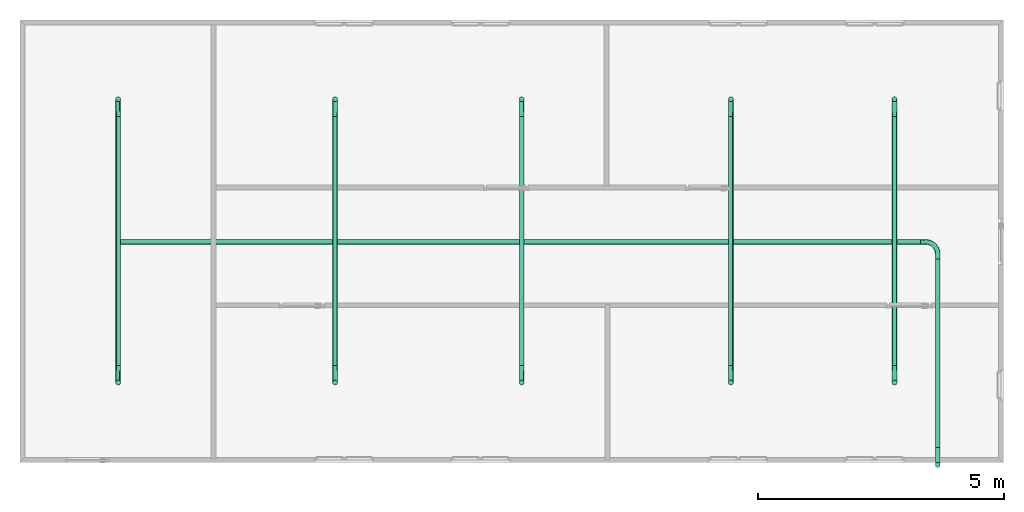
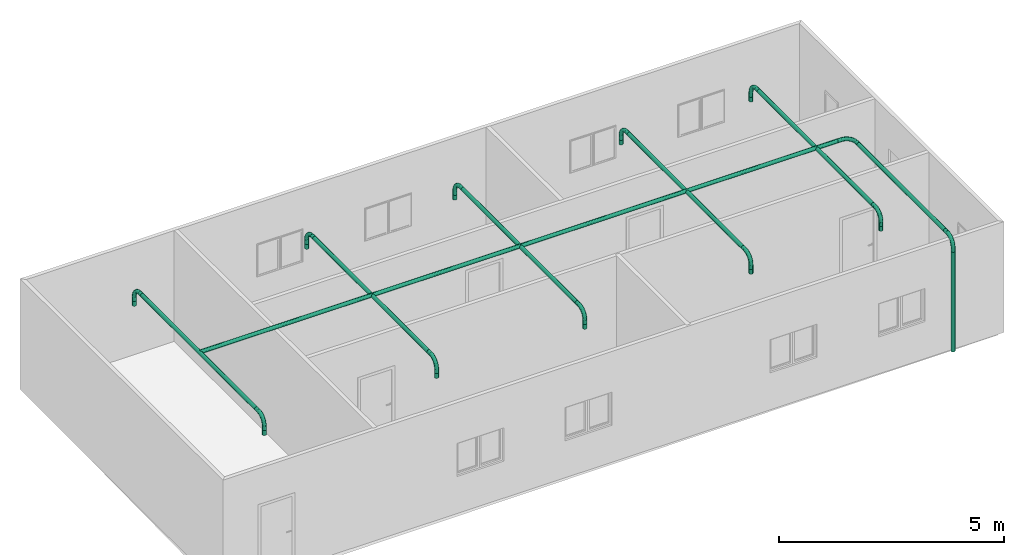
# One storey, part 4 of 4: 18 pipe segments, 12 pipe fittings, 12 openings.
"""IFC4 building model written with IfcOpenShell, lengths in metres."""

import ifcopenshell
import ifcopenshell.guid

model = None  # the IFC model being written
_history = None  # IfcOwnerHistory: only IFC2X3 demands one
_inside = {}  # id of a spatial element -> (the spatial element, [elements in it])
_under = {}  # id of a project, library or spatial element -> (it, [spatial elements below it])
_declared = {}  # id of a project -> (the project, [libraries it declares])
_typed = {}  # id of a type object -> (the type object, [elements of that type])
_made_of = {}  # id of a material, layer set ... -> (it, [elements and type objects made of it])


def new_model(schema):
    """Start an empty IFC model of exactly this schema.

    Asked for "IFC4X3", IfcOpenShell would pick the latest addendum, in which some entities
    have other attributes; the version numbers below select the first issue.
    IFC2X3 requires an IfcOwnerHistory on every rooted entity: one is made here for all.
    """
    global model, _history
    if schema == "IFC4X3":
        model = ifcopenshell.file(schema_version=(4, 3, 0, 0))
    else:
        model = ifcopenshell.file(schema=schema)
    _inside.clear()
    _under.clear()
    _declared.clear()
    _typed.clear()
    _made_of.clear()
    _history = None
    if model.schema == "IFC2X3":
        org = make("IfcOrganization", Name="unknown")
        user = make(
            "IfcPersonAndOrganization",
            ThePerson=make("IfcPerson", FamilyName="unknown"),
            TheOrganization=org,
        )
        app = make(
            "IfcApplication",
            ApplicationDeveloper=org,
            Version="unknown",
            ApplicationFullName="unknown",
            ApplicationIdentifier="unknown",
        )
        _history = make(
            "IfcOwnerHistory",
            OwningUser=user,
            OwningApplication=app,
            ChangeAction="ADDED",
            CreationDate=0,
        )
    return model


def make(cls, **values):
    """One entity of the class cls with the attributes given. An attribute that is None is left unset."""
    return model.create_entity(
        cls, **{name: value for name, value in values.items() if value is not None}
    )


def entity(cls, *values):
    """Any entity or typed value of the class cls, its attributes in the order of the schema. None: left unset."""
    e = model.create_entity(cls)
    for i, value in enumerate(values):
        if value is not None:
            e[i] = value
    return e


def rooted(cls, **values):
    """An entity with a GlobalId (a new one), such as an element, a storey or a relation."""
    return make(cls, GlobalId=ifcopenshell.guid.new(), OwnerHistory=_history, **values)


def si_unit(unit_type, name, prefix=None):
    """IfcSIUnit, for example si_unit("LENGTHUNIT", "METRE", prefix="MILLI")."""
    return make("IfcSIUnit", UnitType=unit_type, Prefix=prefix, Name=name)


def converted_unit(unit_type, name, factor, base, dimensions=None, offset=None):
    """IfcConversionBasedUnit, such as the inch: factor (a typed value) times the base unit."""
    return make(
        "IfcConversionBasedUnit"
        if offset is None
        else "IfcConversionBasedUnitWithOffset",
        ConversionOffset=offset,
        Dimensions=None
        if dimensions is None
        else entity("IfcDimensionalExponents", *dimensions),
        UnitType=unit_type,
        Name=name,
        ConversionFactor=make(
            "IfcMeasureWithUnit", ValueComponent=factor, UnitComponent=base
        ),
    )


def assignment(units):
    """IfcUnitAssignment: the units of a project."""
    return None if units is None else make("IfcUnitAssignment", Units=units)


def point(xyz):
    """IfcCartesianPoint."""
    return None if xyz is None else make("IfcCartesianPoint", Coordinates=xyz)


def direction(xyz):
    """IfcDirection."""
    return None if xyz is None else make("IfcDirection", DirectionRatios=xyz)


def frame(location, z_axis=None, x_axis=None):
    """IfcAxis2Placement3D, a coordinate frame: its origin and axes. An axis left out is left unset."""
    return make(
        "IfcAxis2Placement3D",
        Location=point(location),
        Axis=direction(z_axis),
        RefDirection=direction(x_axis),
    )


def frame_2d(location, x_axis=None):
    """IfcAxis2Placement2D, a coordinate frame in the plane: its origin and x axis."""
    return make(
        "IfcAxis2Placement2D", Location=point(location), RefDirection=direction(x_axis)
    )


def origin_with_axes():
    """The frame at (0, 0, 0) with the z axis (0, 0, 1) and the x axis (1, 0, 0) written out."""
    return frame((0.0, 0.0, 0.0), z_axis=(0.0, 0.0, 1.0), x_axis=(1.0, 0.0, 0.0))


def origin_2d_with_axis():
    """The frame at (0, 0) in the plane with the x axis (1, 0) written out."""
    return frame_2d((0.0, 0.0), x_axis=(1.0, 0.0))


def place(relative_to, where):
    """IfcLocalPlacement: puts the frame where relative to a parent placement (None: the world)."""
    return make(
        "IfcLocalPlacement", PlacementRelTo=relative_to, RelativePlacement=where
    )


def context(
    kind, dimensions, precision=None, world=None, true_north=None, identifier=None
):
    """IfcGeometricRepresentationContext, for example the 3D "Model" context."""
    return make(
        "IfcGeometricRepresentationContext",
        ContextIdentifier=identifier,
        ContextType=kind,
        CoordinateSpaceDimension=dimensions,
        Precision=precision,
        WorldCoordinateSystem=world,
        TrueNorth=true_north,
    )


def subcontext(parent, identifier, kind, view, scale=None):
    """IfcGeometricRepresentationSubContext, for example "Body" below "Model"."""
    return make(
        "IfcGeometricRepresentationSubContext",
        ContextIdentifier=identifier,
        ContextType=kind,
        ParentContext=parent,
        TargetScale=scale,
        TargetView=view,
    )


def project(units=None, contexts=None):
    """IfcProject with its units and contexts."""
    return rooted(
        "IfcProject",
        Name="project",
        RepresentationContexts=contexts,
        UnitsInContext=assignment(units),
    )


def spatial(cls, under=None, at=None, **own):
    """A site, building, storey or space (cls), placed at a placement, below another one or the project."""
    s = rooted(cls, ObjectPlacement=at, **own)
    if under is not None:
        _under.setdefault(under.id(), (under, []))[1].append(s)
    return s


def point_list(points):
    """IfcCartesianPointList2D or 3D."""
    cls = (
        "IfcCartesianPointList2D" if len(points[0]) == 2 else "IfcCartesianPointList3D"
    )
    return make(cls, CoordList=points)


def line(*indices):
    """IfcLineIndex: a straight run through numbered points of an indexed curve."""
    return model.create_entity("IfcLineIndex", indices)


def indexed_curve(points, segments=None, self_intersect=None):
    """IfcIndexedPolyCurve: lines and arcs through numbered points (the first is 1)."""
    return make(
        "IfcIndexedPolyCurve",
        Points=point_list(points),
        Segments=segments,
        SelfIntersect=self_intersect,
    )


def profile(cls, at=None, kind="AREA", **sizes):
    """A parametric profile (cls). Its sizes go by their IFC names, for example OverallWidth=200.0."""
    return make(cls, ProfileType=kind, Position=at, **sizes)


def circle(**sizes):
    """IfcCircleProfileDef."""
    return profile("IfcCircleProfileDef", **sizes)


def outline(outer, holes=None, kind="AREA"):
    """IfcArbitraryClosedProfileDef: a profile drawn as a closed curve; with holes, ...WithVoids."""
    if holes is None:
        return make("IfcArbitraryClosedProfileDef", ProfileType=kind, OuterCurve=outer)
    return make(
        "IfcArbitraryProfileDefWithVoids",
        ProfileType=kind,
        OuterCurve=outer,
        InnerCurves=holes,
    )


def extrude(swept, where, along, depth):
    """IfcExtrudedAreaSolid: the profile swept, set in the frame where, extruded along a direction by depth."""
    return make(
        "IfcExtrudedAreaSolid",
        SweptArea=swept,
        Position=where,
        ExtrudedDirection=direction(along),
        Depth=depth,
    )


def shape(context_of_items, identifier, shape_type, items):
    """IfcShapeRepresentation: the items that make up one representation, for example the "Body"."""
    return make(
        "IfcShapeRepresentation",
        ContextOfItems=context_of_items,
        RepresentationIdentifier=identifier,
        RepresentationType=shape_type,
        Items=items,
    )


def source(mapping_origin, context_of_items, identifier, shape_type, items):
    """IfcRepresentationMap: a shape defined once, which mapped items show again and again."""
    return make(
        "IfcRepresentationMap",
        MappingOrigin=mapping_origin,
        MappedRepresentation=shape(context_of_items, identifier, shape_type, items),
    )


def transform(
    local_origin,
    x_axis=None,
    y_axis=None,
    z_axis=None,
    scale=None,
    scale2=None,
    scale3=None,
    uniform=True,
):
    """IfcCartesianTransformationOperator3D, or its non-uniform kind. x_axis, y_axis, z_axis: its Axis1, 2, 3."""
    if uniform:
        return make(
            "IfcCartesianTransformationOperator3D",
            Axis1=direction(x_axis),
            Axis2=direction(y_axis),
            LocalOrigin=point(local_origin),
            Scale=scale,
            Axis3=direction(z_axis),
        )
    return make(
        "IfcCartesianTransformationOperator3DnonUniform",
        Axis1=direction(x_axis),
        Axis2=direction(y_axis),
        LocalOrigin=point(local_origin),
        Scale=scale,
        Axis3=direction(z_axis),
        Scale2=scale2,
        Scale3=scale3,
    )


def mapped(mapping_source, mapping_target):
    """IfcMappedItem: shows the shape of a source again, moved by a transform."""
    return make(
        "IfcMappedItem", MappingSource=mapping_source, MappingTarget=mapping_target
    )


def material(Name=None, Category=None):
    """IfcMaterial."""
    return make("IfcMaterial", Name=Name, Category=Category)


def material_profile(
    of_material, cross_section, Name=None, Category=None, Priority=None
):
    """IfcMaterialProfile: a cross section and its material."""
    return make(
        "IfcMaterialProfile",
        Name=Name,
        Material=of_material,
        Profile=cross_section,
        Priority=Priority,
        Category=Category,
    )


def profile_set(profiles, Name=None, composite=None):
    """IfcMaterialProfileSet."""
    return make(
        "IfcMaterialProfileSet",
        Name=Name,
        MaterialProfiles=profiles,
        CompositeProfile=composite,
    )


def profile_usage(for_profile_set, cardinal=None, extent=None):
    """IfcMaterialProfileSetUsage: how a profile set lies along its element."""
    return make(
        "IfcMaterialProfileSetUsage",
        ForProfileSet=for_profile_set,
        CardinalPoint=cardinal,
        ReferenceExtent=extent,
    )


def made_of(thing, what):
    """Note that an element or type object is made of a material, layer set ...; save() writes the relation."""
    if what is not None:
        _made_of.setdefault(what.id(), (what, []))[1].append(thing)
    return thing


def type_object(cls, material=None, **own):
    """A type object (cls), such as IfcWallType, which elements share."""
    return made_of(rooted(cls, **own), material)


def type_shapes(of_type, sources):
    """Give a type object the sources (RepresentationMaps) that its elements show as mapped items."""
    of_type.RepresentationMaps = sources


def element(
    cls,
    number,
    at=None,
    inside=None,
    cuts=None,
    type_object=None,
    material=None,
    context=None,
    identifier="Body",
    shape_type=None,
    held_by="IfcProductDefinitionShape",
    body=None,
    shapes=None,
    **own,
):
    """One element of the class cls, such as IfcWall. Its Tag is "e" and its number.

    at: its placement. inside: the storey or other place that contains it. cuts: it is an
    opening in that element (IfcRelVoidsElement). A single representation is given by context,
    identifier, shape_type and body (its items); several are given by shapes. held_by: the class
    of the entity that holds the representations. save() writes the other relations.
    """
    e = rooted(cls, Tag="e%d" % number, ObjectPlacement=at, **own)
    if body is not None:
        shapes = [shape(context, identifier, shape_type, body)]
    if shapes is not None:
        e.Representation = make(held_by, Representations=shapes)
    if inside is not None:
        _inside.setdefault(inside.id(), (inside, []))[1].append(e)
    if cuts is not None:
        rooted(
            "IfcRelVoidsElement", RelatingBuildingElement=cuts, RelatedOpeningElement=e
        )
    if type_object is not None:
        _typed.setdefault(type_object.id(), (type_object, []))[1].append(e)
    return made_of(e, material)


def aggregate(whole, parts):
    """IfcRelAggregates: a whole, such as a stair, and the parts it consists of."""
    return rooted("IfcRelAggregates", RelatingObject=whole, RelatedObjects=parts)


def save(model, path):
    """Write the relations noted so far, then the file.

    IfcRelAggregates (storeys below a building ...), IfcRelContainedInSpatialStructure (elements
    in a storey), IfcRelDefinesByType, IfcRelAssociatesMaterial and IfcRelDeclares: one each for
    every whole, place, type object, material and project.
    """
    for whole, parts in _under.values():
        aggregate(whole, parts)
    for where, things in _inside.values():
        rooted(
            "IfcRelContainedInSpatialStructure",
            RelatedElements=things,
            RelatingStructure=where,
        )
    for kind, things in _typed.values():
        rooted("IfcRelDefinesByType", RelatedObjects=things, RelatingType=kind)
    for what, things in _made_of.values():
        rooted("IfcRelAssociatesMaterial", RelatedObjects=things, RelatingMaterial=what)
    for by, libraries in _declared.values():
        rooted("IfcRelDeclares", RelatingContext=by, RelatedDefinitions=libraries)
    model.write(path)


model = new_model("IFC4")

# Units and contexts
model_context = context("Model", 3, precision=1e-05, world=origin_with_axes())
plan_context = context("Plan", 2, precision=1e-05, world=origin_2d_with_axis())
body_context = subcontext(model_context, "Body", "Model", "MODEL_VIEW")
ifc_project = project(units=[si_unit("LENGTHUNIT", "METRE"), converted_unit("PLANEANGLEUNIT", "degree", entity("IfcReal", 0.0174532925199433), si_unit("PLANEANGLEUNIT", "RADIAN"), dimensions=[0, 0, 0, 0, 0, 0, 0]), si_unit("AREAUNIT", "SQUARE_METRE"), si_unit("VOLUMEUNIT", "CUBIC_METRE")], contexts=[model_context, plan_context])

# Site, building, storey
site_placement = place(None, origin_with_axes())
site = spatial("IfcSite", under=ifc_project, at=site_placement, Name="My Site")
building_placement = place(site_placement, origin_with_axes())
building = spatial("IfcBuilding", under=site, at=building_placement, Name="My Building")
storey_placement = place(building_placement, origin_with_axes())
storey = spatial("IfcBuildingStorey", under=building, at=storey_placement, Name="GF")

# Pipe segments
ifc_material = material(Name="Unknown")
ifc_material_profile = material_profile(ifc_material, circle(Radius=0.05))
ifc_profile_set = profile_set([ifc_material_profile])
ifc_profile_usage_1 = profile_usage(ifc_profile_set, cardinal=5)
pipe_segment_type = type_object("IfcPipeSegmentType", Name="Unnamed", PredefinedType="RIGIDSEGMENT", material=ifc_profile_set)
pipe_segment_1_placement = place(storey_placement, frame((1.9957890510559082, 4.4877238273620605, 3.049635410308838), z_axis=(0.999999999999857, -3.139163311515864e-07, 4.331257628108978e-07), x_axis=(3.1391647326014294e-07, 0.9999999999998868, -3.5762778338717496e-07)))
element("IfcPipeSegment", 1, at=pipe_segment_1_placement, inside=storey, type_object=pipe_segment_type, material=ifc_profile_usage_1, Name="PipeSegment", context=body_context, shape_type="SweptSolid", body=[
    extrude(circle(Radius=0.05), origin_with_axes(), (0.0, 0.0, 1.0), 16.321609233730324),
])
ifc_profile_usage_2 = profile_usage(ifc_profile_set, cardinal=5)
pipe_segment_2_placement = place(storey_placement, frame((1.9957900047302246, 7.039340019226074, 3.0428380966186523), z_axis=(0.0, -0.9999999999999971, 7.549790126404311e-08), x_axis=(1.0, 0.0, 0.0)))
element("IfcPipeSegment", 2, at=pipe_segment_2_placement, inside=storey, type_object=pipe_segment_type, material=ifc_profile_usage_2, Name="PipeSegment", context=body_context, shape_type="SweptSolid", body=[
    extrude(circle(Radius=0.05), origin_with_axes(), (0.0, 0.0, 1.0), 5.064281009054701),
])
ifc_profile_usage_3 = profile_usage(ifc_profile_set, cardinal=5)
pipe_segment_3_placement = place(storey_placement, frame((6.408720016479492, 7.039339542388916, 3.0428380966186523), z_axis=(0.0, -0.9999999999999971, 7.549790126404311e-08), x_axis=(1.0, 0.0, 0.0)))
element("IfcPipeSegment", 3, at=pipe_segment_3_placement, inside=storey, type_object=pipe_segment_type, material=ifc_profile_usage_3, Name="PipeSegment", context=body_context, shape_type="SweptSolid", body=[
    extrude(circle(Radius=0.05), origin_with_axes(), (0.0, 0.0, 1.0), 5.064280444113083),
])
ifc_profile_usage_4 = profile_usage(ifc_profile_set, cardinal=5)
pipe_segment_4_placement = place(storey_placement, frame((10.205100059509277, 7.039339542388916, 3.0428380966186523), z_axis=(0.0, -0.9999999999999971, 7.549790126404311e-08), x_axis=(1.0, 0.0, 0.0)))
element("IfcPipeSegment", 4, at=pipe_segment_4_placement, inside=storey, type_object=pipe_segment_type, material=ifc_profile_usage_4, Name="PipeSegment", context=body_context, shape_type="SweptSolid", body=[
    extrude(circle(Radius=0.05), origin_with_axes(), (0.0, 0.0, 1.0), 5.064280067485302),
])
ifc_profile_usage_5 = profile_usage(ifc_profile_set, cardinal=5)
pipe_segment_5_placement = place(storey_placement, frame((14.460000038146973, 7.039339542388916, 3.0428380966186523), z_axis=(0.0, -0.9999999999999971, 7.549790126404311e-08), x_axis=(1.0, 0.0, 0.0)))
element("IfcPipeSegment", 5, at=pipe_segment_5_placement, inside=storey, type_object=pipe_segment_type, material=ifc_profile_usage_5, Name="PipeSegment", context=body_context, shape_type="SweptSolid", body=[
    extrude(circle(Radius=0.05), origin_with_axes(), (0.0, 0.0, 1.0), 5.064280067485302),
])
ifc_profile_usage_6 = profile_usage(ifc_profile_set, cardinal=5)
pipe_segment_6_placement = place(storey_placement, frame((17.787200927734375, 7.039339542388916, 3.0428380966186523), z_axis=(0.0, -0.9999999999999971, 7.549790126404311e-08), x_axis=(1.0, 0.0, 0.0)))
element("IfcPipeSegment", 6, at=pipe_segment_6_placement, inside=storey, type_object=pipe_segment_type, material=ifc_profile_usage_6, Name="PipeSegment", context=body_context, shape_type="SweptSolid", body=[
    extrude(circle(Radius=0.05), origin_with_axes(), (0.0, 0.0, 1.0), 5.064279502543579),
])
ifc_profile_usage_7 = profile_usage(ifc_profile_set, cardinal=5)
pipe_segment_7_placement = place(storey_placement, frame((18.667400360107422, 4.137715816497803, 3.049635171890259), z_axis=(0.0, -0.9999999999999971, 7.549790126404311e-08), x_axis=(1.0, 0.0, 0.0)))
element("IfcPipeSegment", 7, at=pipe_segment_7_placement, inside=storey, type_object=pipe_segment_type, material=ifc_profile_usage_7, Name="PipeSegment", context=body_context, shape_type="SweptSolid", body=[
    extrude(circle(Radius=0.05), origin_with_axes(), (0.0, 0.0, 1.0), 3.837351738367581),
])
ifc_profile_usage_8 = profile_usage(ifc_profile_set, cardinal=5)
pipe_segment_8_placement = place(storey_placement, frame((18.667400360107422, -0.04963544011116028, 2.6996352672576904), z_axis=(-8.742279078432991e-08, -8.742276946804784e-08, -0.9999999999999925), x_axis=(-0.9999999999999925, 8.74227765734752e-08, 8.74227765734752e-08)))
element("IfcPipeSegment", 8, at=pipe_segment_8_placement, inside=storey, type_object=pipe_segment_type, material=ifc_profile_usage_8, Name="PipeSegment", context=body_context, shape_type="SweptSolid", body=[
    extrude(circle(Radius=0.05), origin_with_axes(), (0.0, 0.0, 1.0), 2.6995742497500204),
])
ifc_profile_usage_9 = profile_usage(ifc_profile_set, cardinal=5)
pipe_segment_9_placement = place(storey_placement, frame((1.9957900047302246, 1.625059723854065, 2.692838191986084), z_axis=(-8.742279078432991e-08, -8.742276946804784e-08, -0.9999999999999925), x_axis=(-0.9999999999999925, 8.74227765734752e-08, 8.74227765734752e-08)))
element("IfcPipeSegment", 9, at=pipe_segment_9_placement, inside=storey, type_object=pipe_segment_type, material=ifc_profile_usage_9, Name="PipeSegment", context=body_context, shape_type="SweptSolid", body=[
    extrude(circle(Radius=0.05), origin_with_axes(), (0.0, 0.0, 1.0), 0.13056516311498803),
])
ifc_profile_usage_10 = profile_usage(ifc_profile_set, cardinal=5)
pipe_segment_10_placement = place(storey_placement, frame((6.408720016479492, 1.625059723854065, 2.692838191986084), z_axis=(-8.742279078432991e-08, -8.742276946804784e-08, -0.9999999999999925), x_axis=(-0.9999999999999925, 8.74227765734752e-08, 8.74227765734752e-08)))
element("IfcPipeSegment", 10, at=pipe_segment_10_placement, inside=storey, type_object=pipe_segment_type, material=ifc_profile_usage_10, Name="PipeSegment", context=body_context, shape_type="SweptSolid", body=[
    extrude(circle(Radius=0.05), origin_with_axes(), (0.0, 0.0, 1.0), 0.13056516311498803),
])
ifc_profile_usage_11 = profile_usage(ifc_profile_set, cardinal=5)
pipe_segment_11_placement = place(storey_placement, frame((10.205100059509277, 1.625059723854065, 2.692838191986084), z_axis=(-8.742279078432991e-08, -8.742276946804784e-08, -0.9999999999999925), x_axis=(-0.9999999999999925, 8.74227765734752e-08, 8.74227765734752e-08)))
element("IfcPipeSegment", 11, at=pipe_segment_11_placement, inside=storey, type_object=pipe_segment_type, material=ifc_profile_usage_11, Name="PipeSegment", context=body_context, shape_type="SweptSolid", body=[
    extrude(circle(Radius=0.05), origin_with_axes(), (0.0, 0.0, 1.0), 0.13056516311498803),
])
ifc_profile_usage_12 = profile_usage(ifc_profile_set, cardinal=5)
pipe_segment_12_placement = place(storey_placement, frame((14.460000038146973, 1.625059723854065, 2.692838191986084), z_axis=(-8.742279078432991e-08, -8.742276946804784e-08, -0.9999999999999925), x_axis=(-0.9999999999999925, 8.74227765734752e-08, 8.74227765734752e-08)))
element("IfcPipeSegment", 12, at=pipe_segment_12_placement, inside=storey, type_object=pipe_segment_type, material=ifc_profile_usage_12, Name="PipeSegment", context=body_context, shape_type="SweptSolid", body=[
    extrude(circle(Radius=0.05), origin_with_axes(), (0.0, 0.0, 1.0), 0.13056516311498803),
])
ifc_profile_usage_13 = profile_usage(ifc_profile_set, cardinal=5)
pipe_segment_13_placement = place(storey_placement, frame((17.787200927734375, 1.625059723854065, 2.692838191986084), z_axis=(-8.742279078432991e-08, -8.742276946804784e-08, -0.9999999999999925), x_axis=(-0.9999999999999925, 8.74227765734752e-08, 8.74227765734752e-08)))
element("IfcPipeSegment", 13, at=pipe_segment_13_placement, inside=storey, type_object=pipe_segment_type, material=ifc_profile_usage_13, Name="PipeSegment", context=body_context, shape_type="SweptSolid", body=[
    extrude(circle(Radius=0.05), origin_with_axes(), (0.0, 0.0, 1.0), 0.13056516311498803),
])
ifc_profile_usage_14 = profile_usage(ifc_profile_set, cardinal=5)
pipe_segment_14_placement = place(storey_placement, frame((17.787200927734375, 7.389339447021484, 2.692838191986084), z_axis=(-8.742279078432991e-08, -8.742276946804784e-08, -0.9999999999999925), x_axis=(-0.9999999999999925, 8.74227765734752e-08, 8.74227765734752e-08)))
element("IfcPipeSegment", 14, at=pipe_segment_14_placement, inside=storey, type_object=pipe_segment_type, material=ifc_profile_usage_14, Name="PipeSegment", context=body_context, shape_type="SweptSolid", body=[
    extrude(circle(Radius=0.05), origin_with_axes(), (0.0, 0.0, 1.0), 0.13056492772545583),
])
ifc_profile_usage_15 = profile_usage(ifc_profile_set, cardinal=5)
pipe_segment_15_placement = place(storey_placement, frame((1.9957900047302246, 7.389339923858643, 2.692838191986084), z_axis=(-8.742279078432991e-08, -8.742276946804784e-08, -0.9999999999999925), x_axis=(-0.9999999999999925, 8.74227765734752e-08, 8.74227765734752e-08)))
element("IfcPipeSegment", 15, at=pipe_segment_15_placement, inside=storey, type_object=pipe_segment_type, material=ifc_profile_usage_15, Name="PipeSegment", context=body_context, shape_type="SweptSolid", body=[
    extrude(circle(Radius=0.05), origin_with_axes(), (0.0, 0.0, 1.0), 0.13056516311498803),
])
ifc_profile_usage_16 = profile_usage(ifc_profile_set, cardinal=5)
pipe_segment_16_placement = place(storey_placement, frame((6.408720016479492, 7.389339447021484, 2.692838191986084), z_axis=(-8.742279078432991e-08, -8.742276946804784e-08, -0.9999999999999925), x_axis=(-0.9999999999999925, 8.74227765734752e-08, 8.74227765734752e-08)))
element("IfcPipeSegment", 16, at=pipe_segment_16_placement, inside=storey, type_object=pipe_segment_type, material=ifc_profile_usage_16, Name="PipeSegment", context=body_context, shape_type="SweptSolid", body=[
    extrude(circle(Radius=0.05), origin_with_axes(), (0.0, 0.0, 1.0), 0.13056516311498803),
])
ifc_profile_usage_17 = profile_usage(ifc_profile_set, cardinal=5)
pipe_segment_17_placement = place(storey_placement, frame((10.205100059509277, 7.389339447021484, 2.692838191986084), z_axis=(-8.742279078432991e-08, -8.742276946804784e-08, -0.9999999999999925), x_axis=(-0.9999999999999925, 8.74227765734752e-08, 8.74227765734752e-08)))
element("IfcPipeSegment", 17, at=pipe_segment_17_placement, inside=storey, type_object=pipe_segment_type, material=ifc_profile_usage_17, Name="PipeSegment", context=body_context, shape_type="SweptSolid", body=[
    extrude(circle(Radius=0.05), origin_with_axes(), (0.0, 0.0, 1.0), 0.13056516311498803),
])
ifc_profile_usage_18 = profile_usage(ifc_profile_set, cardinal=5)
pipe_segment_18_placement = place(storey_placement, frame((14.460000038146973, 7.389339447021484, 2.692838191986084), z_axis=(-8.742279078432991e-08, -8.742276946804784e-08, -0.9999999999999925), x_axis=(-0.9999999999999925, 8.74227765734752e-08, 8.74227765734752e-08)))
element("IfcPipeSegment", 18, at=pipe_segment_18_placement, inside=storey, type_object=pipe_segment_type, material=ifc_profile_usage_18, Name="PipeSegment", context=body_context, shape_type="SweptSolid", body=[
    extrude(circle(Radius=0.05), origin_with_axes(), (0.0, 0.0, 1.0), 0.13056516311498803),
])

# Pipe fitting, opening
pipe_fitting_type = type_object("IfcPipeFittingType", Name="Bend", PredefinedType="BEND")
shared_shape = source(origin_with_axes(), body_context, "Body", "SolidModel", [
    entity("IfcSweptDiskSolid", entity("IfcIndexedPolyCurve", entity("IfcCartesianPointList3D", [[0.0, 0.0, 0.10000000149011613], [0.0, -0.07322330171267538, 0.2767766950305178], [0.0, -0.24999999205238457, 0.35000000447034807]]), [entity("IfcArcIndex", [1, 2, 3])]), 0.05),
    extrude(circle(Radius=0.05), origin_with_axes(), (0.0, 0.0, 1.0), 0.10000000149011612),
    extrude(circle(Radius=0.05), frame((0.0, -0.24999999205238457, 0.35000000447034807), z_axis=(0.0, -0.999999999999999, 4.371139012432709e-08), x_axis=(1.0, 0.0, 0.0)), (0.0, 0.0, 1.0), 0.10000000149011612),
])
type_shapes(pipe_fitting_type, [shared_shape])
pipe_fitting_1_placement = place(storey_placement, frame((18.667400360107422, -0.04963544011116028, 2.6996352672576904), z_axis=(8.742279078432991e-08, 8.742276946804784e-08, 0.9999999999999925), x_axis=(-0.9999999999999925, 8.74227765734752e-08, 8.742278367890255e-08)))
pipe_fitting_1 = element("IfcPipeFitting", 19, at=pipe_fitting_1_placement, inside=storey, type_object=pipe_fitting_type, Name="PipeFitting", context=body_context, shape_type="MappedRepresentation", body=[
    mapped(shared_shape, transform((0.0, 0.0, 0.0), x_axis=(1.0, 0.0, 0.0), y_axis=(0.0, 1.0, 0.0), z_axis=(0.0, 0.0, 1.0), scale=1.0)),
])
opening_1_placement = place(pipe_fitting_1_placement, frame((18.667400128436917, -0.04963404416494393, -2.6996368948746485), z_axis=(8.742278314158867e-08, 8.742277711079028e-08, 0.9999999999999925), x_axis=(-0.9999999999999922, -8.742276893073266e-08, 8.742279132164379e-08)))
element("IfcOpeningElement", 20, at=opening_1_placement, cuts=pipe_fitting_1, Name="Unnamed", PredefinedType="OPENING", context=body_context, shape_type="SweptSolid", body=[
    extrude(outline(indexed_curve([(0.0, 0.0), (0.5, 0.0), (0.5, 0.5), (0.0, 0.5)], segments=[line(1, 2, 3, 4, 1)])), origin_with_axes(), (0.0, 0.0, 1.0), 0.5),
])

pipe_fitting_2_placement = place(storey_placement, frame((1.9957900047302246, 1.9750596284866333, 3.0428380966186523), z_axis=(0.0, -0.9999999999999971, 7.549790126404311e-08), x_axis=(1.0, 0.0, 0.0)))
pipe_fitting_2 = element("IfcPipeFitting", 21, at=pipe_fitting_2_placement, inside=storey, type_object=pipe_fitting_type, Name="PipeFitting", context=body_context, shape_type="MappedRepresentation", body=[
    mapped(shared_shape, transform((0.0, 0.0, 0.0), x_axis=(1.0, 0.0, 0.0), y_axis=(0.0, 1.0, 0.0), z_axis=(0.0, 0.0, 1.0), scale=1.0)),
])
opening_2_placement = place(pipe_fitting_2_placement, frame((-1.9957900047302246, -3.0428382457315, 1.9750593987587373), z_axis=(0.0, 0.9999999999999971, 7.549790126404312e-08), x_axis=(1.0, 0.0, 0.0)))
element("IfcOpeningElement", 22, at=opening_2_placement, cuts=pipe_fitting_2, Name="Unnamed", PredefinedType="OPENING", context=body_context, shape_type="SweptSolid", body=[
    extrude(outline(indexed_curve([(0.0, 0.0), (0.5, 0.0), (0.5, 0.5), (0.0, 0.5)], segments=[line(1, 2, 3, 4, 1)])), origin_with_axes(), (0.0, 0.0, 1.0), 0.5),
])

pipe_fitting_3_placement = place(storey_placement, frame((6.408720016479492, 1.9750596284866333, 3.0428380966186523), z_axis=(0.0, -0.9999999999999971, 7.549790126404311e-08), x_axis=(1.0, 0.0, 0.0)))
pipe_fitting_3 = element("IfcPipeFitting", 23, at=pipe_fitting_3_placement, inside=storey, type_object=pipe_fitting_type, Name="PipeFitting", context=body_context, shape_type="MappedRepresentation", body=[
    mapped(shared_shape, transform((0.0, 0.0, 0.0), x_axis=(1.0, 0.0, 0.0), y_axis=(0.0, 1.0, 0.0), z_axis=(0.0, 0.0, 1.0), scale=1.0)),
])
opening_3_placement = place(pipe_fitting_3_placement, frame((-6.408720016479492, -3.0428382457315, 1.9750593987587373), z_axis=(0.0, 0.9999999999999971, 7.549790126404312e-08), x_axis=(1.0, 0.0, 0.0)))
element("IfcOpeningElement", 24, at=opening_3_placement, cuts=pipe_fitting_3, Name="Unnamed", PredefinedType="OPENING", context=body_context, shape_type="SweptSolid", body=[
    extrude(outline(indexed_curve([(0.0, 0.0), (0.5, 0.0), (0.5, 0.5), (0.0, 0.5)], segments=[line(1, 2, 3, 4, 1)])), origin_with_axes(), (0.0, 0.0, 1.0), 0.5),
])

pipe_fitting_4_placement = place(storey_placement, frame((10.205100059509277, 1.9750596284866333, 3.0428380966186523), z_axis=(0.0, -0.9999999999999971, 7.549790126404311e-08), x_axis=(1.0, 0.0, 0.0)))
pipe_fitting_4 = element("IfcPipeFitting", 25, at=pipe_fitting_4_placement, inside=storey, type_object=pipe_fitting_type, Name="PipeFitting", context=body_context, shape_type="MappedRepresentation", body=[
    mapped(shared_shape, transform((0.0, 0.0, 0.0), x_axis=(1.0, 0.0, 0.0), y_axis=(0.0, 1.0, 0.0), z_axis=(0.0, 0.0, 1.0), scale=1.0)),
])
opening_4_placement = place(pipe_fitting_4_placement, frame((-10.205100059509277, -3.0428382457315, 1.9750593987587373), z_axis=(0.0, 0.9999999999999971, 7.549790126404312e-08), x_axis=(1.0, 0.0, 0.0)))
element("IfcOpeningElement", 26, at=opening_4_placement, cuts=pipe_fitting_4, Name="Unnamed", PredefinedType="OPENING", context=body_context, shape_type="SweptSolid", body=[
    extrude(outline(indexed_curve([(0.0, 0.0), (0.5, 0.0), (0.5, 0.5), (0.0, 0.5)], segments=[line(1, 2, 3, 4, 1)])), origin_with_axes(), (0.0, 0.0, 1.0), 0.5),
])

pipe_fitting_5_placement = place(storey_placement, frame((18.667400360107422, 4.137715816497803, 3.049635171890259), z_axis=(0.0, 0.9999999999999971, -7.549790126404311e-08), x_axis=(0.0, 7.549790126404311e-08, 0.9999999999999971)))
pipe_fitting_5 = element("IfcPipeFitting", 27, at=pipe_fitting_5_placement, inside=storey, type_object=pipe_fitting_type, Name="PipeFitting", context=body_context, shape_type="MappedRepresentation", body=[
    mapped(shared_shape, transform((0.0, 0.0, 0.0), x_axis=(1.0, 0.0, 0.0), y_axis=(0.0, 1.0, 0.0), z_axis=(0.0, 0.0, 1.0), scale=1.0)),
])
opening_5_placement = place(pipe_fitting_5_placement, frame((-3.04963548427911, -18.667400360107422, -4.1377155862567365), z_axis=(0.9999999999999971, 0.0, -7.549790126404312e-08), x_axis=(0.0, 1.0, 0.0)))
element("IfcOpeningElement", 28, at=opening_5_placement, cuts=pipe_fitting_5, Name="Unnamed", PredefinedType="OPENING", context=body_context, shape_type="SweptSolid", body=[
    extrude(outline(indexed_curve([(0.0, 0.0), (0.5, 0.0), (0.5, 0.5), (0.0, 0.5)], segments=[line(1, 2, 3, 4, 1)])), origin_with_axes(), (0.0, 0.0, 1.0), 0.5),
])

pipe_fitting_6_placement = place(storey_placement, frame((17.787200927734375, 7.039339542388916, 3.0428380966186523), z_axis=(0.0, 0.9999999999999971, -7.549790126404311e-08), x_axis=(-1.0, 0.0, 0.0)))
pipe_fitting_6 = element("IfcPipeFitting", 29, at=pipe_fitting_6_placement, inside=storey, type_object=pipe_fitting_type, Name="PipeFitting", context=body_context, shape_type="MappedRepresentation", body=[
    mapped(shared_shape, transform((0.0, 0.0, 0.0), x_axis=(1.0, 0.0, 0.0), y_axis=(0.0, 1.0, 0.0), z_axis=(0.0, 0.0, 1.0), scale=1.0)),
])
opening_6_placement = place(pipe_fitting_6_placement, frame((17.787200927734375, -3.042838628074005, -7.0393393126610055), z_axis=(0.0, 0.9999999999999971, -7.549790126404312e-08), x_axis=(-1.0, 0.0, 0.0)))
element("IfcOpeningElement", 30, at=opening_6_placement, cuts=pipe_fitting_6, Name="Unnamed", PredefinedType="OPENING", context=body_context, shape_type="SweptSolid", body=[
    extrude(outline(indexed_curve([(0.0, 0.0), (0.5, 0.0), (0.5, 0.5), (0.0, 0.5)], segments=[line(1, 2, 3, 4, 1)])), origin_with_axes(), (0.0, 0.0, 1.0), 0.5),
])

pipe_fitting_7_placement = place(storey_placement, frame((14.460000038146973, 7.389339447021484, 2.692838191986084), z_axis=(8.742279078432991e-08, 8.742276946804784e-08, 0.9999999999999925), x_axis=(0.9999999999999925, -8.74227765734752e-08, -8.742278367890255e-08)))
pipe_fitting_7 = element("IfcPipeFitting", 31, at=pipe_fitting_7_placement, inside=storey, type_object=pipe_fitting_type, Name="PipeFitting", context=body_context, shape_type="MappedRepresentation", body=[
    mapped(shared_shape, transform((0.0, 0.0, 0.0), x_axis=(1.0, 0.0, 0.0), y_axis=(0.0, 1.0, 0.0), z_axis=(0.0, 0.0, 1.0), scale=1.0)),
])
opening_7_placement = place(pipe_fitting_7_placement, frame((-14.45999915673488, -7.389340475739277, -2.6928401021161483), z_axis=(-8.742278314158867e-08, -8.742277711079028e-08, 0.9999999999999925), x_axis=(0.9999999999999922, 8.742276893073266e-08, 8.742279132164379e-08)))
element("IfcOpeningElement", 32, at=opening_7_placement, cuts=pipe_fitting_7, Name="Unnamed", PredefinedType="OPENING", context=body_context, shape_type="SweptSolid", body=[
    extrude(outline(indexed_curve([(0.0, 0.0), (0.5, 0.0), (0.5, 0.5), (0.0, 0.5)], segments=[line(1, 2, 3, 4, 1)])), origin_with_axes(), (0.0, 0.0, 1.0), 0.5),
])

pipe_fitting_8_placement = place(storey_placement, frame((10.205100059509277, 7.389339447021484, 2.692838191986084), z_axis=(8.742279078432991e-08, 8.742276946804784e-08, 0.9999999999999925), x_axis=(0.9999999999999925, -8.74227765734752e-08, -8.742278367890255e-08)))
pipe_fitting_8 = element("IfcPipeFitting", 33, at=pipe_fitting_8_placement, inside=storey, type_object=pipe_fitting_type, Name="PipeFitting", context=body_context, shape_type="MappedRepresentation", body=[
    mapped(shared_shape, transform((0.0, 0.0, 0.0), x_axis=(1.0, 0.0, 0.0), y_axis=(0.0, 1.0, 0.0), z_axis=(0.0, 0.0, 1.0), scale=1.0)),
])
opening_8_placement = place(pipe_fitting_8_placement, frame((-10.205099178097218, -7.389340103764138, -2.6928397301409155), z_axis=(-8.742278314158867e-08, -8.742277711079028e-08, 0.9999999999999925), x_axis=(0.9999999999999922, 8.742276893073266e-08, 8.742279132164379e-08)))
element("IfcOpeningElement", 34, at=opening_8_placement, cuts=pipe_fitting_8, Name="Unnamed", PredefinedType="OPENING", context=body_context, shape_type="SweptSolid", body=[
    extrude(outline(indexed_curve([(0.0, 0.0), (0.5, 0.0), (0.5, 0.5), (0.0, 0.5)], segments=[line(1, 2, 3, 4, 1)])), origin_with_axes(), (0.0, 0.0, 1.0), 0.5),
])

pipe_fitting_9_placement = place(storey_placement, frame((6.408720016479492, 7.389339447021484, 2.692838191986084), z_axis=(8.742279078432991e-08, 8.742276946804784e-08, 0.9999999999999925), x_axis=(0.9999999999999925, -8.74227765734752e-08, -8.742278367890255e-08)))
pipe_fitting_9 = element("IfcPipeFitting", 35, at=pipe_fitting_9_placement, inside=storey, type_object=pipe_fitting_type, Name="PipeFitting", context=body_context, shape_type="MappedRepresentation", body=[
    mapped(shared_shape, transform((0.0, 0.0, 0.0), x_axis=(1.0, 0.0, 0.0), y_axis=(0.0, 1.0, 0.0), z_axis=(0.0, 0.0, 1.0), scale=1.0)),
])
opening_9_placement = place(pipe_fitting_9_placement, frame((-6.408719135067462, -7.389339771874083, -2.6928393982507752), z_axis=(-8.742278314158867e-08, -8.742277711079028e-08, 0.9999999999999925), x_axis=(0.9999999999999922, 8.742276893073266e-08, 8.742279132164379e-08)))
element("IfcOpeningElement", 36, at=opening_9_placement, cuts=pipe_fitting_9, Name="Unnamed", PredefinedType="OPENING", context=body_context, shape_type="SweptSolid", body=[
    extrude(outline(indexed_curve([(0.0, 0.0), (0.5, 0.0), (0.5, 0.5), (0.0, 0.5)], segments=[line(1, 2, 3, 4, 1)])), origin_with_axes(), (0.0, 0.0, 1.0), 0.5),
])

pipe_fitting_10_placement = place(storey_placement, frame((1.9957900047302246, 7.389339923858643, 2.692838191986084), z_axis=(8.742279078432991e-08, 8.742276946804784e-08, 0.9999999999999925), x_axis=(0.9999999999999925, -8.74227765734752e-08, -8.742278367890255e-08)))
pipe_fitting_10 = element("IfcPipeFitting", 37, at=pipe_fitting_10_placement, inside=storey, type_object=pipe_fitting_type, Name="PipeFitting", context=body_context, shape_type="MappedRepresentation", body=[
    mapped(shared_shape, transform((0.0, 0.0, 0.0), x_axis=(1.0, 0.0, 0.0), y_axis=(0.0, 1.0, 0.0), z_axis=(0.0, 0.0, 1.0), scale=1.0)),
])
opening_10_placement = place(pipe_fitting_10_placement, frame((-1.9957891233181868, -7.389339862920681, -2.692839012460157), z_axis=(-8.742278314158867e-08, -8.742277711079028e-08, 0.9999999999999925), x_axis=(0.9999999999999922, 8.742276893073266e-08, 8.742279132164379e-08)))
element("IfcOpeningElement", 38, at=opening_10_placement, cuts=pipe_fitting_10, Name="Unnamed", PredefinedType="OPENING", context=body_context, shape_type="SweptSolid", body=[
    extrude(outline(indexed_curve([(0.0, 0.0), (0.5, 0.0), (0.5, 0.5), (0.0, 0.5)], segments=[line(1, 2, 3, 4, 1)])), origin_with_axes(), (0.0, 0.0, 1.0), 0.5),
])

pipe_fitting_11_placement = place(storey_placement, frame((14.460000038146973, 1.9750596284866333, 3.0428380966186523), z_axis=(0.0, -0.9999999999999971, 7.549790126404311e-08), x_axis=(1.0, 0.0, 0.0)))
pipe_fitting_11 = element("IfcPipeFitting", 39, at=pipe_fitting_11_placement, inside=storey, type_object=pipe_fitting_type, Name="PipeFitting", context=body_context, shape_type="MappedRepresentation", body=[
    mapped(shared_shape, transform((0.0, 0.0, 0.0), x_axis=(1.0, 0.0, 0.0), y_axis=(0.0, 1.0, 0.0), z_axis=(0.0, 0.0, 1.0), scale=1.0)),
])
opening_11_placement = place(pipe_fitting_11_placement, frame((-14.460000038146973, -3.0428382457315, 1.9750593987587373), z_axis=(0.0, 0.9999999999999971, 7.549790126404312e-08), x_axis=(1.0, 0.0, 0.0)))
element("IfcOpeningElement", 40, at=opening_11_placement, cuts=pipe_fitting_11, Name="Unnamed", PredefinedType="OPENING", context=body_context, shape_type="SweptSolid", body=[
    extrude(outline(indexed_curve([(0.0, 0.0), (0.5, 0.0), (0.5, 0.5), (0.0, 0.5)], segments=[line(1, 2, 3, 4, 1)])), origin_with_axes(), (0.0, 0.0, 1.0), 0.5),
])

pipe_fitting_12_placement = place(storey_placement, frame((17.787200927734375, 1.625059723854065, 2.692838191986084), z_axis=(1.5099580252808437e-07, 8.742276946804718e-08, 0.9999999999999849), x_axis=(-0.9999999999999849, 8.742278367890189e-08, 1.5099578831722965e-07)))
pipe_fitting_12 = element("IfcPipeFitting", 41, at=pipe_fitting_12_placement, inside=storey, type_object=pipe_fitting_type, Name="PipeFitting", context=body_context, shape_type="MappedRepresentation", body=[
    mapped(shared_shape, transform((0.0, 0.0, 0.0), x_axis=(1.0, 0.0, 0.0), y_axis=(0.0, 1.0, 0.0), z_axis=(0.0, 0.0, 1.0), scale=1.0)),
])
opening_12_placement = place(pipe_fitting_12_placement, frame((17.787200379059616, 1.6250610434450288, -2.6928410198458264), z_axis=(1.5099579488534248e-07, 8.742278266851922e-08, 0.9999999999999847), x_axis=(-0.9999999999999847, -8.742277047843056e-08, 1.5099579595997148e-07)))
element("IfcOpeningElement", 42, at=opening_12_placement, cuts=pipe_fitting_12, Name="Unnamed", PredefinedType="OPENING", context=body_context, shape_type="SweptSolid", body=[
    extrude(outline(indexed_curve([(0.0, 0.0), (0.5, 0.0), (0.5, 0.5), (0.0, 0.5)], segments=[line(1, 2, 3, 4, 1)])), origin_with_axes(), (0.0, 0.0, 1.0), 0.5),
])

save(model, "model.ifc")
